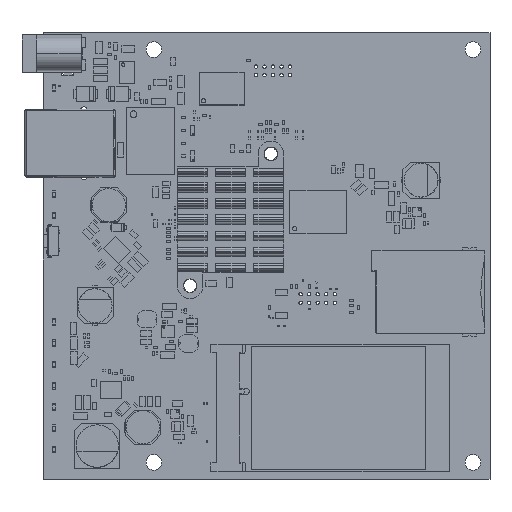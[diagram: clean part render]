
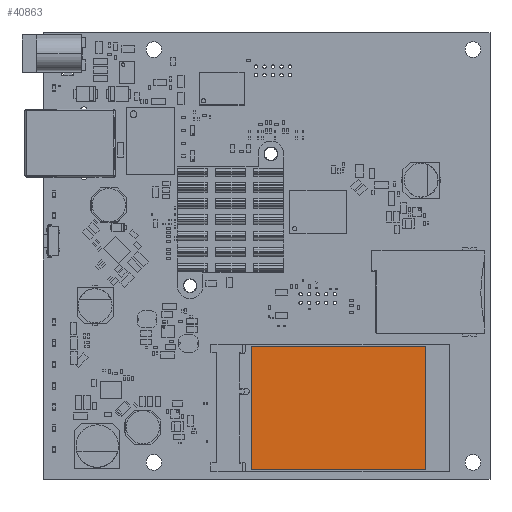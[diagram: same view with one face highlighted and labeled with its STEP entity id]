
A CAD part, top view. The second image highlights one B-rep face of the part: STEP entity #40863.
In plain terms, the highlighted planar face has unit normal (0, 0, 1).
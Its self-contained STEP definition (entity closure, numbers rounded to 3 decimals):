
#5639 = ORIENTED_EDGE ( 'NONE', *, *, #88675, .F. ) ;
#8155 = CARTESIAN_POINT ( 'NONE',  ( 48.9, 31.3, 7.9 ) ) ;
#9670 = FACE_OUTER_BOUND ( 'NONE', #129014, .T. ) ;
#25423 = ORIENTED_EDGE ( 'NONE', *, *, #173559, .F. ) ;
#29965 = CARTESIAN_POINT ( 'NONE',  ( 48.9, 31.3, 7.9 ) ) ;
#33056 = LINE ( 'NONE', #76939, #137438 ) ;
#34761 = ORIENTED_EDGE ( 'NONE', *, *, #38061, .F. ) ;
#38061 = EDGE_CURVE ( 'NONE', #65009, #116774, #166676, .T. ) ;
#40863 = ADVANCED_FACE ( 'NONE', ( #9670 ), #51641, .T. ) ;
#51641 = PLANE ( 'NONE',  #182867 ) ;
#65009 = VERTEX_POINT ( 'NONE', #134178 ) ;
#66328 = DIRECTION ( 'NONE',  ( 1., 0., 0. ) ) ;
#76939 = CARTESIAN_POINT ( 'NONE',  ( 48.9, 2.3, 7.9 ) ) ;
#78475 = DIRECTION ( 'NONE',  ( 1., 0., 0. ) ) ;
#79449 = DIRECTION ( 'NONE',  ( -1., 0., 0. ) ) ;
#86507 = CARTESIAN_POINT ( 'NONE',  ( 89.9, 31.3, 7.9 ) ) ;
#88675 = EDGE_CURVE ( 'NONE', #104190, #65009, #94120, .T. ) ;
#94120 = LINE ( 'NONE', #8155, #148441 ) ;
#94927 = CARTESIAN_POINT ( 'NONE',  ( 89.9, 2.3, 7.9 ) ) ;
#104190 = VERTEX_POINT ( 'NONE', #29965 ) ;
#105245 = LINE ( 'NONE', #178715, #114671 ) ;
#114671 = VECTOR ( 'NONE', #79449, 1000. ) ;
#116774 = VERTEX_POINT ( 'NONE', #94927 ) ;
#129014 = EDGE_LOOP ( 'NONE', ( #34761, #5639, #25423, #143618 ) ) ;
#134178 = CARTESIAN_POINT ( 'NONE',  ( 89.9, 31.3, 7.9 ) ) ;
#136066 = DIRECTION ( 'NONE',  ( 0., 1., 0. ) ) ;
#137438 = VECTOR ( 'NONE', #136066, 1000. ) ;
#138547 = CARTESIAN_POINT ( 'NONE',  ( 89.9, 2.3, 7.9 ) ) ;
#139488 = DIRECTION ( 'NONE',  ( 0., 0., 1. ) ) ;
#143618 = ORIENTED_EDGE ( 'NONE', *, *, #176736, .F. ) ;
#148441 = VECTOR ( 'NONE', #66328, 1000. ) ;
#151182 = VECTOR ( 'NONE', #155143, 1000. ) ;
#155143 = DIRECTION ( 'NONE',  ( 0., -1., 0. ) ) ;
#166676 = LINE ( 'NONE', #86507, #151182 ) ;
#173559 = EDGE_CURVE ( 'NONE', #174635, #104190, #33056, .T. ) ;
#174635 = VERTEX_POINT ( 'NONE', #177924 ) ;
#176736 = EDGE_CURVE ( 'NONE', #116774, #174635, #105245, .T. ) ;
#177924 = CARTESIAN_POINT ( 'NONE',  ( 48.9, 2.3, 7.9 ) ) ;
#178715 = CARTESIAN_POINT ( 'NONE',  ( 89.9, 2.3, 7.9 ) ) ;
#182867 = AXIS2_PLACEMENT_3D ( 'NONE', #138547, #139488, #78475 ) ;
